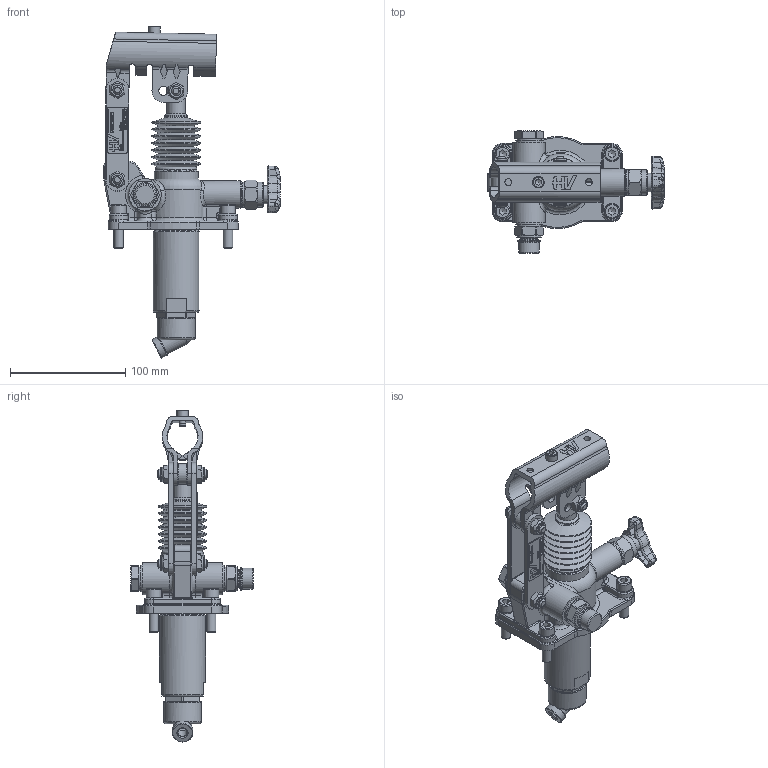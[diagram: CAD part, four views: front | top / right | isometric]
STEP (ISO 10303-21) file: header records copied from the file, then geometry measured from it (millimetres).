
FILE_DESCRIPTION((''),'2;1');
FILE_NAME('G:\HV_HYDRAULIC\AZIENDA_HV_HYDRAULIC\ARCHIVIO_DISEGNI\5_PRODOTTI_FINITI\1_POMPE_MANUALI\6052_PM_45\6052.0116_PM_45_s_(HV)\6052.0116.stp','2024-02-28T13:54:00',('christian.scardovi'),(''),'Autodesk Inventor 2013','Autodesk Inventor 2013','');
FILE_SCHEMA(('AUTOMOTIVE_DESIGN { 1 0 10303 214 1 1 1 1 }'));
Length unit declared in the file: millimetre
Products named in the file (1): 6052.0116
Bounding box: 153.5 x 106.5 x 288.31 mm (x, y, z)
Volume: 430965.3 mm3; surface area: 128494.2 mm2
Topology: 3 solids, 3 shells, 1671 faces, 4198 edges, 2626 vertices
Faces by surface type: plane 752, cylinder 345, bspline 268, torus 149, cone 141, sphere 16
Full cylindrical faces by diameter (mm): 5 x5, 6 x4, 6.5 x2, 8 x15, 9 x2, 9.2 x1, 10 x4, 10.376 x1, 11.05 x6, 12 x5, 13 x4, 13.2 x1, 14 x4, 14.95 x3, 16 x4, 16.6 x1, 18 x5, 20 x2, 21 x3, 21.6 x1, 21.8 x2, 22 x2, 23 x3, 24 x2, 26.5 x1, 27 x1, 28 x1, 29 x1, 30 x2, 32 x1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
Entity records: 58101 total; most frequent: CARTESIAN_POINT 19354, ORIENTED_EDGE 7802, DIRECTION 7089, EDGE_CURVE 3901, VERTEX_POINT 2562, AXIS2_PLACEMENT_3D 2548, EDGE_LOOP 2023, VECTOR 1993
